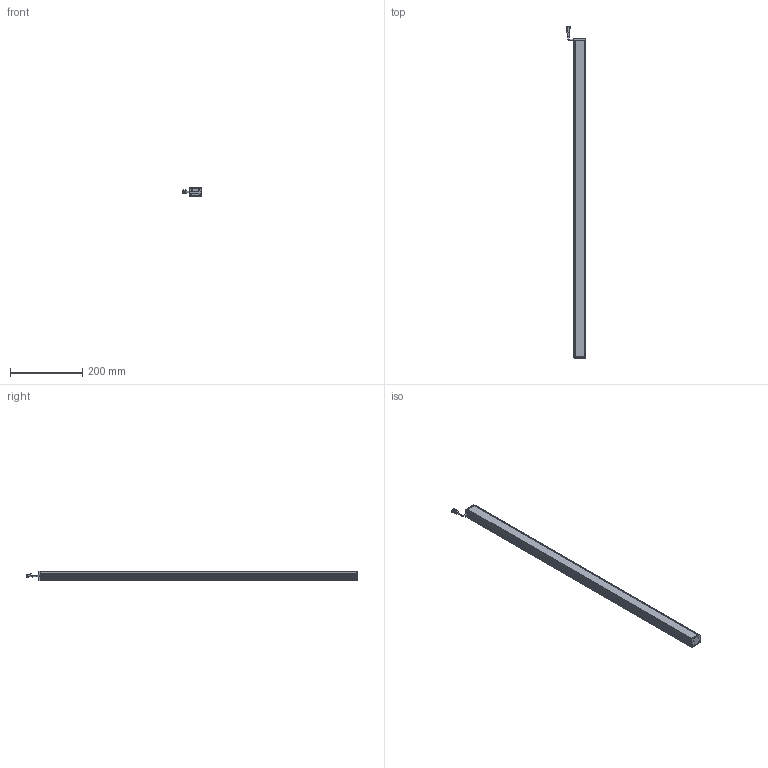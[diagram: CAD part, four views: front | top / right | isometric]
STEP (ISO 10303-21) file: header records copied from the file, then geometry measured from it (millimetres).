
FILE_DESCRIPTION(/* description */ (''),/* implementation_level */ '2;1');
FILE_NAME(/* name */ '',/* time_stamp */ '2024-02-21T10:54:44+08:00',/* author */ (''),/* organization */ (''),/* preprocessor_version */ 'ST-DEVELOPER v20',/* originating_system */ 'Autodesk Translation Framework v12.20.1.177',/* authorisation */ '');
FILE_SCHEMA (('AUTOMOTIVE_DESIGN { 1 0 10303 214 3 1 1 }'));
Length unit declared in the file: millimetre
Products named in the file (6): L30; 3拼母头 v2; 主体; 漫射板; 挡头 (1); 挡头
Assembly tree (5 placements, depth 2):
  L30
    3拼母头 v2
    主体
    漫射板
    挡头 (1)
    挡头
Bounding box: 52 x 919 x 27 mm (x, y, z)
Volume: 306971 mm3; surface area: 288194.1 mm2
Topology: 6 solids, 6 shells, 416 faces, 1179 edges, 784 vertices
Faces by surface type: plane 300, cylinder 111, cone 4, torus 1
Full cylindrical faces by diameter (mm): 2.529 x4, 3.8 x3
Entity records: 13619 total; most frequent: CARTESIAN_POINT 2391, ORIENTED_EDGE 2350, DIRECTION 2265, EDGE_CURVE 1175, LINE 937, VECTOR 937, VERTEX_POINT 784, AXIS2_PLACEMENT_3D 664
